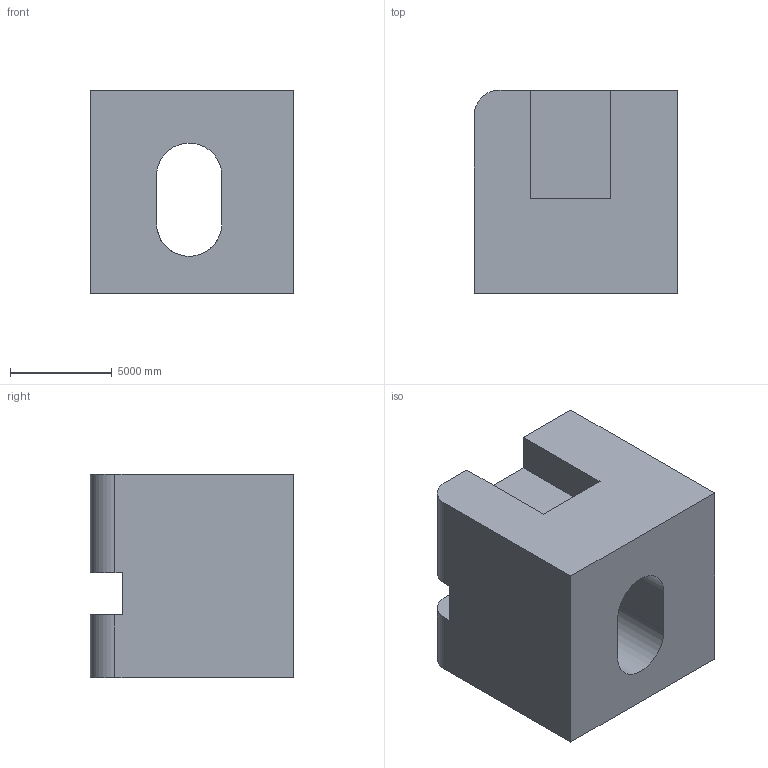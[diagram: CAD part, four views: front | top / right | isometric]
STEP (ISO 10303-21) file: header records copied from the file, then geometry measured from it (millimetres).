
FILE_DESCRIPTION (( 'STEP AP203' ), '1' );
FILE_NAME ('1357.STEP', '2022-08-25T14:54:47', ( 'user' ), ( '' ), 'SwSTEP 2.0', 'SolidWorks 2021', '' );
FILE_SCHEMA (( 'CONFIG_CONTROL_DESIGN' ));
Length unit declared in the file: centimetre
Products named in the file (1): 1357
Bounding box: 10000 x 10000 x 10000 mm (x, y, z)
Volume: 780104561184.5 mm3; surface area: 739347962.5 mm2
Topology: 1 solids, 1 shells, 24 faces, 69 edges, 46 vertices
Faces by surface type: plane 19, cylinder 5
Entity records: 866 total; most frequent: CARTESIAN_POINT 140, ORIENTED_EDGE 138, DIRECTION 131, EDGE_CURVE 69, VECTOR 57, LINE 57, VERTEX_POINT 46, AXIS2_PLACEMENT_3D 37
